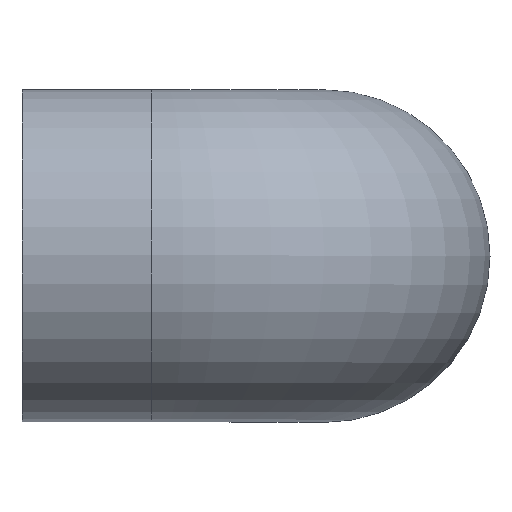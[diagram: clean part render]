
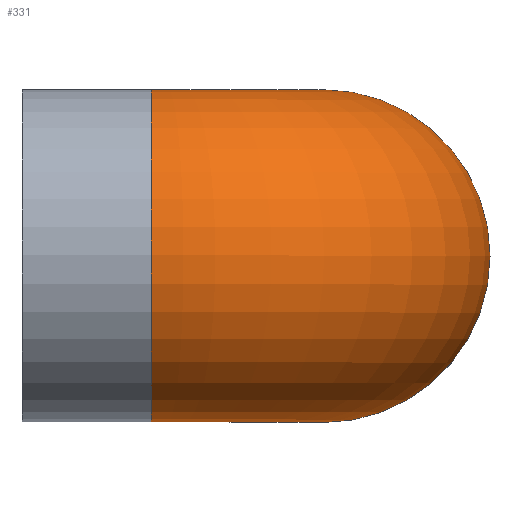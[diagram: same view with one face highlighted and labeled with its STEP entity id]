
A CAD part, top view. The second image highlights one B-rep face of the part: STEP entity #331.
In plain terms, the highlighted toroidal (fillet/blend) face has major radius 67.5 mm and minor radius 65 mm.
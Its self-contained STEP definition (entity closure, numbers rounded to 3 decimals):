
#19=FACE_BOUND('',#92,.T.);
#24=TOROIDAL_SURFACE('',#357,67.5,65.);
#65=FACE_OUTER_BOUND('',#91,.T.);
#91=EDGE_LOOP('',(#287));
#92=EDGE_LOOP('',(#288));
#110=CIRCLE('',#356,65.);
#111=CIRCLE('',#358,65.);
#164=VERTEX_POINT('',#13693);
#165=VERTEX_POINT('',#13696);
#208=EDGE_CURVE('',#164,#164,#110,.T.);
#209=EDGE_CURVE('',#165,#165,#111,.T.);
#287=ORIENTED_EDGE('',*,*,#208,.F.);
#288=ORIENTED_EDGE('',*,*,#209,.T.);
#331=ADVANCED_FACE('',(#65,#19),#24,.T.);
#356=AXIS2_PLACEMENT_3D('',#13694,#409,#410);
#357=AXIS2_PLACEMENT_3D('',#13695,#411,#412);
#358=AXIS2_PLACEMENT_3D('',#13697,#413,#414);
#409=DIRECTION('center_axis',(-1.,0.,0.));
#410=DIRECTION('ref_axis',(0.,0.,-1.));
#411=DIRECTION('center_axis',(0.,-1.,0.));
#412=DIRECTION('ref_axis',(0.,0.,-1.));
#413=DIRECTION('center_axis',(0.,0.,1.));
#414=DIRECTION('ref_axis',(-1.,0.,0.));
#13693=CARTESIAN_POINT('',(-67.5,0.,183.));
#13694=CARTESIAN_POINT('Origin',(-67.5,0.,118.));
#13695=CARTESIAN_POINT('Origin',(-67.5,0.,50.5));
#13696=CARTESIAN_POINT('',(65.,0.,50.5));
#13697=CARTESIAN_POINT('Origin',(0.,0.,50.5));
